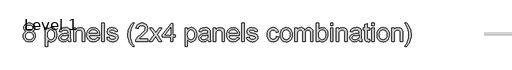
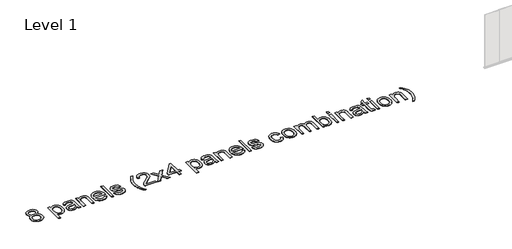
# One storey, part 15 of 80: 1 proxy.
"""IFC4 building model written with IfcOpenShell, lengths in millimetres."""

from ifc_helpers import new_model, si_unit, origin, origin_with_axes, place, context, project, spatial, polyline, outline, extrude, element, save

model = new_model("IFC4")

# Units and contexts
model_context = context("Model", 3, world=origin())
ifc_project = project(units=[si_unit("LENGTHUNIT", "METRE", prefix="MILLI")], contexts=[model_context])

# Site, building, storey
site = spatial("IfcSite", under=ifc_project)
building = spatial("IfcBuilding", under=site)
storey = spatial("IfcBuildingStorey", under=building, Name="Level 1", Elevation=0.0)

# Proxy
placement = place(None, origin())
element("IfcBuildingElementProxy", 1, Name="800mm Arial", ObjectType="800mm Arial", at=placement, inside=storey, context=model_context, shape_type="SweptSolid", body=[
    extrude(outline(polyline([(394665.4723823, -97085.9110834), (394636.728494, -97073.9085431), (394611.9732547, -97059.5640438), (394591.2066644, -97042.8775853), (394574.4287232, -97023.8491678), (394561.4930586, -97002.6617568), (394552.2532982, -96979.4983178), (394546.7094419, -96954.3588508), (394544.8614898, -96927.2433559), (394548.886732, -96886.4908284), (394560.9624585, -96849.1292625), (394581.0886693, -96815.1586582), (394609.2653645, -96784.5790154), (394644.1385989, -96759.3053737), (394684.3544274, -96741.2527725), (394729.9128501, -96730.4212118), (394780.8138669, -96726.8106915), (394831.9588378, -96730.5065957), (394877.8587961, -96741.5943082), (394918.513742, -96760.0738291), (394953.9236753, -96785.9451582), (394982.612674, -96817.1224885), (395003.1048159, -96851.5200124), (395015.4001011, -96889.1377301), (395019.4985295, -96929.9756415), (395017.6749728, -96956.1336167), (395012.2043028, -96980.5473203), (395003.0865194, -97003.2167523), (394990.3216227, -97024.1419127), (394973.848624, -97043.0422543), (394953.606535, -97059.63723), (394929.5953556, -97073.9268397), (394901.8150859, -97085.9110834), (394934.6574026, -97099.8835528), (394963.315907, -97117.6007171), (394987.7905992, -97139.0625765), (395008.081479, -97164.2691308), (395024.0055809, -97192.6592858), (395035.3799395, -97223.671947), (395042.2045546, -97257.3071145), (395044.4794263, -97293.5647882), (395039.966276, -97343.4046048), (395026.4268251, -97389.0972022), (395003.8610736, -97430.6425805), (394972.2690214, -97468.0407395), (394933.3095564, -97498.9497202), (394888.641566, -97521.0275636), (394838.2650505, -97534.2742696), (394782.1800097, -97538.6898383), (394726.0949688, -97534.2559731), (394675.7184533, -97520.9543774), (394631.050463, -97498.7850512), (394592.0909979, -97467.7479946), (394560.4989458, -97430.0875849), (394537.9331942, -97388.0481997), (394524.3937433, -97341.629839), (394519.880593, -97290.8325026), (394522.2469475, -97252.9220401), (394529.346011, -97218.2317712), (394541.1777834, -97186.7616961), (394557.7422648, -97158.5118148), (394578.673524, -97133.9944307), (394603.60563, -97113.7218474), (394632.5385828, -97097.694065), (394665.4723823, -97085.9110834)]), holes=[polyline([(394644.7850771, -96930.1708047), (394646.9989603, -96953.078092), (394653.6406099, -96973.7897926), (394664.7100258, -96992.3059065), (394680.2072082, -97008.6264338), (394699.9369936, -97021.9463261), (394723.704219, -97031.4605348), (394751.5088841, -97037.1690601), (394783.3509892, -97039.0719018), (394814.4063424, -97037.1812578), (394841.6072212, -97031.5093256), (394864.9536258, -97022.0561054), (394884.445556, -97008.8215971), (394899.8146625, -96992.8426055), (394910.7925957, -96975.1559353), (394917.3793556, -96955.7615867), (394919.5749422, -96934.6595596), (394917.3061693, -96912.7341875), (394910.4998508, -96892.6262733), (394899.1559865, -96874.3358168), (394883.2745765, -96857.8628182), (394863.3435289, -96844.2440822), (394839.8507519, -96834.5164137), (394812.7962455, -96828.6798125), (394782.1800097, -96826.7342788), (394751.3259186, -96828.6371206), (394724.1433363, -96834.3456458), (394700.6322627, -96843.8598546), (394680.792698, -96857.1797468), (394665.0393638, -96873.1587385), (394653.7869823, -96890.6502453), (394647.0355534, -96909.6542674), (394644.7850771, -96930.1708047)]), polyline([(394619.8041803, -97287.319564), (394623.9757949, -97325.5471669), (394636.4906387, -97362.5549994), (394646.437866, -97379.7232671), (394659.5930892, -97394.8301229), (394675.9563085, -97407.8755668), (394695.5275238, -97418.8595988), (394738.5610219, -97433.789588), (394782.9606627, -97438.766251), (394819.0902605, -97436.1498436), (394850.9750576, -97428.3006214), (394878.6150538, -97415.2185843), (394902.0102491, -97396.9037325), (394920.6239447, -97374.5514408), (394933.9194415, -97349.3570841), (394941.8967396, -97321.3206626), (394944.555839, -97290.4421761), (394941.8113557, -97259.0696826), (394933.5779058, -97230.5270564), (394919.8554894, -97204.8142974), (394900.6441063, -97181.9314055), (394876.6146304, -97163.1469421), (394848.4379352, -97149.7294682), (394816.1140209, -97141.6789839), (394779.6428873, -97138.9954891), (394744.0438896, -97141.6423908), (394712.5799133, -97149.5830958), (394685.2509586, -97162.8176041), (394662.0570253, -97181.3459158), (394643.5714056, -97203.8506788), (394630.3673916, -97229.0145412), (394622.4449831, -97256.8375029), (394619.8041803, -97287.319564)])]), origin_with_axes(), (0.0, 0.0, 1.0), 5.0),
    extrude(outline(polyline([(395469.1546723, -97751.0274613), (395469.1546723, -96939.1483145), (395569.0782596, -96939.1483145), (395569.0782596, -97037.1202693), (395601.6705234, -96988.7929679), (395619.4303798, -96969.8072424), (395638.1660524, -96954.2734669), (395658.4142402, -96942.1916416), (395680.7116423, -96933.5617663), (395705.0582585, -96928.3838412), (395731.4540889, -96926.6578661), (395766.3029279, -96929.0730114), (395799.0293665, -96936.3184473), (395829.6334046, -96948.3941738), (395858.1150424, -96965.3001909), (395883.8521968, -96986.5973813), (395906.2227851, -97011.8466276), (395925.2268072, -97041.0479298), (395940.8642631, -97074.201288), (395953.0741643, -97110.1723157), (395961.7955224, -97147.8266265), (395967.0283372, -97187.1642203), (395968.7726088, -97228.1850973), (395966.8026796, -97272.0419403), (395960.8928923, -97313.6422082), (395951.0432467, -97352.9859009), (395937.2537429, -97390.0730185), (395919.7134452, -97423.9338435), (395898.6114181, -97453.5986585), (395873.9476615, -97479.0674635), (395845.7221756, -97500.3402584), (395815.3193995, -97517.1181996), (395784.1237728, -97529.1024433), (395752.1352953, -97536.2929895), (395719.353967, -97538.6898383), (395695.7697073, -97537.0858403), (395673.4174156, -97532.2738462), (395652.2970919, -97524.2538562), (395632.4087363, -97513.0258701), (395597.3037456, -97483.9709403), (395569.0782596, -97448.1340873), (395569.0782596, -97751.0274613), (395469.1546723, -97751.0274613)]), holes=[polyline([(395569.0782596, -97237.3577704), (395571.7800509, -97285.5143039), (395579.8854249, -97326.9377051), (395593.3943816, -97361.6279739), (395612.3069209, -97389.5851104), (395635.0739345, -97411.1018594), (395660.1463141, -97426.4709658), (395687.5240597, -97435.6924297), (395717.2071712, -97438.766251), (395747.3172024, -97435.5826504), (395775.1950538, -97426.0318485), (395800.8407255, -97410.1138454), (395824.2542174, -97387.8286411), (395843.7644442, -97358.8590952), (395857.7003205, -97322.8880675), (395866.0618462, -97279.915558), (395868.8490215, -97229.9415666), (395866.1289336, -97182.199755), (395857.9686699, -97140.8495401), (395844.3682305, -97105.8909217), (395825.3276153, -97077.3239001), (395802.505712, -97055.1240797), (395777.5614083, -97039.2670651), (395750.4947042, -97029.7528563), (395721.3055996, -97026.5814534), (395692.2079778, -97029.9541184), (395664.8302323, -97040.0721135), (395639.1723629, -97056.9354386), (395615.2343697, -97080.5440938), (395595.0410716, -97110.5809388), (395580.6172871, -97146.7288332), (395571.9630165, -97188.987777), (395569.0782596, -97237.3577704)])]), origin_with_axes(), (0.0, 0.0, 1.0), 5.0),
    extrude(outline(polyline([(396455.9000968, -97451.2566994), (396408.1582852, -97492.1921924), (396383.7567793, -97507.3539379), (396359.00154, -97518.9783494), (396307.3076725, -97533.7619661), (396251.9544938, -97538.6898383), (396207.4633702, -97535.7257963), (396168.4490155, -97526.8336705), (396134.9114297, -97512.0134607), (396106.8506127, -97491.265167), (396084.6934842, -97465.9061413), (396068.8669639, -97437.2537358), (396059.3710517, -97405.3079502), (396056.2057476, -97370.0687847), (396060.9872474, -97328.6453836), (396075.3317468, -97291.0276659), (396097.458381, -97258.8257286), (396125.5862853, -97233.6496685), (396158.6420619, -97214.621251), (396195.5523127, -97200.8622414), (396282.0096353, -97185.8346707), (396384.1776001, -97170.0264469), (396455.3146071, -97151.4859375), (396455.9000968, -97129.2373263), (396454.1802206, -97105.0126871), (396449.020592, -97084.6425222), (396440.421211, -97068.1268316), (396428.3820777, -97055.4656154), (396407.5727954, -97042.8287945), (396382.2259675, -97033.8024939), (396352.3415939, -97028.3867135), (396317.9196745, -97026.5814534), (396258.3948813, -97031.3873486), (396235.3656171, -97037.3947176), (396216.8251077, -97045.8050342), (396201.590176, -97057.2769743), (396188.4776447, -97072.4692141), (396177.4875138, -97091.3817534), (396168.6197834, -97114.0145923), (396068.6961961, -97101.5241439), (396086.0413305, -97046.8784321), (396097.9157949, -97023.9467495), (396111.9248574, -97003.9425157), (396128.6723043, -96986.4632065), (396148.761922, -96971.1062978), (396172.1937105, -96957.8717895), (396198.9676697, -96946.7596815), (396260.3709093, -96931.68332), (396330.8004494, -96926.6578661), (396398.3513316, -96931.0978302), (396451.8992501, -96944.4177225), (396492.2736487, -96964.4463517), (396520.3039714, -96989.0125266), (396538.8932716, -97019.3848083), (396550.9446027, -97056.8317582), (396554.6039138, -97091.3756546), (396555.8236841, -97144.264897), (396555.8236841, -97268.5838914), (396557.0922453, -97376.8751033), (396560.8979288, -97442.181608), (396568.4117142, -97485.093129), (396580.8045809, -97526.1993899), (396480.8809936, -97526.1993899), (396464.8776066, -97491.4603302), (396455.9000968, -97451.2566994)]), holes=[polyline([(396455.9000968, -97251.4095248), (396388.7639366, -97268.0471924), (396294.695247, -97282.0501561), (396242.855007, -97289.7103139), (396208.7258325, -97298.2487064), (396186.3552443, -97309.3242212), (396169.7907629, -97324.595746), (396159.5446919, -97342.8923013), (396156.1293349, -97363.0429075), (396157.9894847, -97378.5705841), (396163.5699341, -97392.7565133), (396172.870683, -97405.6006951), (396185.8917315, -97417.1031295), (396202.5111026, -97426.5807452), (396222.6068192, -97433.3504706), (396273.2272888, -97438.766251), (396326.8971843, -97432.7893763), (396351.390173, -97425.3182829), (396374.3218556, -97414.8587521), (396412.7690171, -97388.4385262), (396439.5063833, -97356.9928466), (396451.3625511, -97324.595746), (396455.3146071, -97279.708197), (396455.9000968, -97251.4095248)])]), origin_with_axes(), (0.0, 0.0, 1.0), 5.0),
    extrude(outline(polyline([(396693.2186166, -97526.1993899), (396693.2186166, -96939.1483145), (396793.1422039, -96939.1483145), (396793.1422039, -97021.1168822), (396809.6274002, -96998.9780503), (396827.8568682, -96979.7910627), (396847.8306077, -96963.5559193), (396869.5486188, -96950.2726202), (396893.0109016, -96939.9411653), (396918.2174559, -96932.5615546), (396973.8633794, -96926.6578661), (397023.1177062, -96931.4149705), (397068.2248139, -96945.6862836), (397105.8425315, -96967.6909408), (397132.6286885, -96995.6480773), (397150.8032668, -97029.4845069), (397162.5862484, -97069.1270433), (397166.5383043, -97107.0375059), (397167.8556563, -97165.7328553), (397167.8556563, -97526.1993899), (397067.932069, -97526.1993899), (397067.932069, -97179.1991199), (397065.053411, -97127.5296478), (397056.4174369, -97090.7901648), (397040.4872361, -97064.4675206), (397015.7258979, -97044.0485649), (396983.9874733, -97030.9482313), (396947.1260133, -97026.5814534), (396916.7842257, -97029.0331918), (396888.6014317, -97036.3884071), (396862.5776313, -97048.6470991), (396838.7128243, -97065.809268), (396818.7756779, -97089.8265462), (396804.534859, -97122.6505664), (396795.9903677, -97164.2813285), (396793.1422039, -97214.7188326), (396793.1422039, -97526.1993899), (396693.2186166, -97526.1993899)])), origin_with_axes(), (0.0, 0.0, 1.0), 5.0),
    extrude(outline(polyline([(397716.2644069, -97351.3331121), (397814.2363616, -97363.8235605), (397799.2148897, -97403.0635728), (397778.9362076, -97437.6440623), (397753.4003152, -97467.565029), (397722.6072127, -97492.826473), (397686.8740402, -97512.8916953), (397646.5179381, -97527.223997), (397601.5389063, -97535.823378), (397551.9369449, -97538.6898383), (397489.9360179, -97533.7436695), (397434.6926186, -97518.9051632), (397386.2067471, -97494.1743193), (397344.4784034, -97459.5511378), (397310.9225209, -97415.9992374), (397286.9540335, -97364.4822365), (397272.5729411, -97305.0001353), (397267.7792436, -97237.5529336), (397272.6217319, -97167.8186626), (397287.1491968, -97106.3544345), (397311.3616383, -97053.1602494), (397327.0997253, -97029.664423), (397345.2590564, -97008.2361073), (397386.8776208, -96972.5456268), (397434.2535013, -96947.0524264), (397487.3866979, -96931.7565062), (397546.2772105, -96926.6578661), (397603.2709802, -96931.7443085), (397654.8123765, -96947.0036356), (397700.9013993, -96972.4358475), (397741.5380486, -97008.0409441), (397774.7097033, -97052.8675045), (397798.4037424, -97105.964108), (397812.6201659, -97167.3307544), (397817.3589737, -97236.9674439), (397816.7734839, -97263.8999732), (397367.7028309, -97263.8999732), (397373.4906412, -97303.7742661), (397384.9991745, -97338.6962913), (397402.2284307, -97368.6660488), (397425.1784099, -97393.6835388), (397452.5805509, -97413.4072254), (397483.1662925, -97427.4955729), (397516.9356347, -97435.9485815), (397553.8885775, -97438.766251), (397607.0705649, -97433.5456339), (397651.8605322, -97417.8837826), (397671.1085084, -97405.89344), (397688.2584796, -97390.8048807), (397703.3104457, -97372.6181048), (397716.2644069, -97351.3331121)]), holes=[polyline([(397367.7028309, -97163.9763859), (397717.4353864, -97163.9763859), (397712.3001532, -97135.7021092), (397703.9203309, -97111.1847251), (397692.2959194, -97090.4242337), (397677.4269188, -97073.420635), (397650.1772491, -97052.928493), (397619.1706868, -97038.2912488), (397584.4072317, -97029.5089023), (397545.886884, -97026.5814534), (397510.751399, -97028.9173136), (397478.5311651, -97035.9248943), (397449.2261824, -97047.6041954), (397422.8364508, -97063.955217), (397400.6915201, -97084.2217014), (397384.1209398, -97107.6473911), (397373.1247101, -97134.2322859), (397367.7028309, -97163.9763859)])]), origin_with_axes(), (0.0, 0.0, 1.0), 5.0),
    extrude(outline(polyline([(397917.282561, -97526.1993899), (397917.282561, -96726.8106915), (398017.2061483, -96726.8106915), (398017.2061483, -97526.1993899), (397917.282561, -97526.1993899)])), origin_with_axes(), (0.0, 0.0, 1.0), 5.0),
    extrude(outline(polyline([(398129.620184, -97351.3331121), (398229.5437713, -97338.8426637), (398235.5816345, -97361.6279739), (398245.3032042, -97381.5834169), (398258.7084804, -97398.7089926), (398275.797463, -97413.0047012), (398296.618943, -97424.2753792), (398321.221711, -97432.3258635), (398349.6057671, -97437.1561541), (398381.7711113, -97438.766251), (398413.8998624, -97437.2903289), (398441.5886494, -97432.8625625), (398464.8374723, -97425.4829519), (398483.6463311, -97415.151497), (398498.1615983, -97402.8318164), (398508.5296463, -97389.4875288), (398514.7504751, -97375.118634), (398516.8240847, -97359.7251321), (398514.7382774, -97346.234472), (398508.4808555, -97334.2563272), (398498.051819, -97323.7906976), (398483.4511679, -97314.8375832), (398446.0286135, -97302.1519715), (398380.6001317, -97286.3437477), (398289.4101002, -97259.9723127), (398230.129261, -97237.455352), (398192.0480306, -97212.8891771), (398176.9411748, -97197.6237511), (398164.4568252, -97180.3700995), (398147.6971806, -97141.9717288), (398142.1106324, -97099.7676746), (398146.5993873, -97061.0521636), (398160.065652, -97025.3128923), (398181.2896561, -96993.9647942), (398209.0516293, -96968.422803), (398236.6428347, -96952.3462298), (398272.5772693, -96938.8555697), (398314.1226475, -96929.707292), (398358.5466838, -96926.6578661), (398423.584839, -96931.5613429), (398480.1333925, -96946.2717734), (398525.6064313, -96969.3498285), (398543.2199152, -96983.4869669), (398557.4180421, -96999.3561791), (398578.4956738, -97038.5108075), (398591.7667752, -97089.0336955), (398491.8431879, -97101.5241439), (398487.0799847, -97084.8315866), (398479.2307625, -97070.0784642), (398468.2955213, -97057.2647766), (398454.274261, -97046.3905239), (398437.1059933, -97037.7240556), (398416.7297296, -97031.533721), (398366.353214, -97026.5814534), (398308.9752166, -97031.3141624), (398287.4584676, -97037.2300486), (398270.7232184, -97045.5122893), (398249.2064694, -97066.0044312), (398243.8272821, -97077.4214817), (398242.0342197, -97089.6191852), (398245.0104593, -97104.9882917), (398253.9391783, -97118.6985105), (398269.2107031, -97130.9450048), (398291.2153603, -97140.7519584), (398377.2823564, -97162.0247534), (398465.5693345, -97188.1278389), (398523.9475436, -97209.0590982), (398562.68745, -97231.5516635), (398592.0595201, -97262.3386672), (398602.8605866, -97280.8669788), (398610.575634, -97301.5176909), (398615.2046625, -97324.2908034), (398616.747672, -97349.1863163), (398614.9363131, -97374.1916085), (398609.5022361, -97398.4650385), (398600.4454413, -97422.0066064), (398587.7659284, -97444.8163119), (398571.6710586, -97465.9854264), (398552.3681928, -97484.6052209), (398529.857331, -97500.6756953), (398504.1384731, -97514.1968496), (398475.9129871, -97524.9125322), (398445.882241, -97532.5665911), (398414.0462348, -97537.1590265), (398380.4049685, -97538.6898383), (398326.6252936, -97535.737994), (398279.6519374, -97526.8824613), (398239.4848996, -97512.12324), (398206.1241805, -97491.4603302), (398178.8745108, -97464.9913136), (398157.0406215, -97432.8137717), (398140.6225126, -97394.9277045), (398129.620184, -97351.3331121)])), origin_with_axes(), (0.0, 0.0, 1.0), 5.0),
    extrude(outline(polyline([(399241.2700926, -97751.0274613), (399200.932287, -97698.8334879), (399163.8390706, -97642.3703183), (399129.9904433, -97581.6379524), (399099.3864052, -97516.6363903), (399074.0273795, -97448.8903449), (399055.9137898, -97379.9245292), (399045.045636, -97309.7389431), (399041.422918, -97238.3335866), (399044.1308082, -97175.576402), (399052.2544788, -97114.1609647), (399065.7939297, -97054.0872749), (399084.7491609, -96995.3553324), (399113.5601367, -96927.9996135), (399149.2506172, -96860.7902671), (399191.8206025, -96793.7272931), (399241.2700926, -96726.8106915), (399316.2127831, -96726.8106915), (399257.4198521, -96821.8064066), (399222.7295832, -96885.0880925), (399190.8203908, -96960.2259462), (399166.5225654, -97038.4864121), (399147.6405203, -97138.4587902), (399141.3465053, -97238.9190764), (399144.0787909, -97302.9753165), (399152.2756477, -97367.0193589), (399165.9370756, -97431.0512035), (399185.0630748, -97495.0708505), (399209.6536451, -97559.0782997), (399239.7087866, -97623.0735513), (399275.2284992, -97687.0566051), (399316.2127831, -97751.0274613), (399241.2700926, -97751.0274613)])), origin_with_axes(), (0.0, 0.0, 1.0), 5.0),
    extrude(outline(polyline([(399903.2638584, -97426.2758026), (399903.2638584, -97526.1993899), (399378.6650251, -97526.1993899), (399380.8606118, -97491.0212129), (399389.3990042, -97457.3067604), (399414.0383654, -97403.466097), (399450.094777, -97351.2355305), (399502.2521573, -97296.5654233), (399575.1944244, -97235.4061378), (399683.0221235, -97139.6297697), (399720.7618182, -97101.1460151), (399747.718743, -97068.9318801), (399766.5885904, -97040.0477181), (399780.0670528, -97011.5538827), (399788.1541302, -96983.4503737), (399790.8498227, -96955.7371913), (399788.3066015, -96929.6646), (399780.676938, -96905.7022115), (399767.960832, -96883.8500256), (399750.1582837, -96864.1080424), (399728.2573071, -96847.7570209), (399703.245916, -96836.0777197), (399675.1241105, -96829.0701391), (399643.8918906, -96826.7342788), (399610.9885854, -96829.0152494), (399581.5616256, -96835.8581611), (399555.6110113, -96847.2630139), (399533.1367426, -96863.2298078), (399514.9560655, -96883.2218439), (399501.8862262, -96906.7024232), (399493.9272246, -96933.6715457), (399491.0790608, -96964.1292114), (399391.1554735, -96951.6387629), (399399.7487557, -96900.0546747), (399415.3801127, -96854.9841602), (399438.0495448, -96816.4272194), (399467.7570517, -96784.3838522), (399503.8195622, -96759.1955944), (399545.5540048, -96741.2039817), (399592.9603795, -96730.4090141), (399646.0386864, -96726.8106915), (399699.5927038, -96730.8115383), (399747.2552303, -96742.8140786), (399789.026266, -96762.8183124), (399824.905811, -96790.8242396), (399853.7228855, -96824.7582509), (399874.3065102, -96862.5467364), (399886.6566851, -96904.1896962), (399890.77341, -96949.6871304), (399886.3334459, -96997.4777328), (399873.0135537, -97044.4388914), (399849.3744042, -97092.2050984), (399813.9766686, -97142.4108461), (399757.5500921, -97202.3503612), (399670.82442, -97279.3178705), (399555.873262, -97375.4357743), (399530.941156, -97400.7826022), (399510.7905497, -97426.2758026), (399903.2638584, -97426.2758026)])), origin_with_axes(), (0.0, 0.0, 1.0), 5.0),
    extrude(outline(polyline([(399965.7161005, -97526.1993899), (400179.224703, -97231.1125462), (399978.2065489, -96939.1483145), (400098.4271149, -96939.1483145), (400195.4232533, -97079.6658592), (400240.7011288, -97146.0213664), (400279.9289433, -97091.7659811), (400390.3913465, -96939.1483145), (400510.6119124, -96939.1483145), (400299.445269, -97231.1125462), (400502.8053822, -97526.1993899), (400382.5848162, -97526.1993899), (400260.2174544, -97348.7959898), (400237.7736799, -97316.3988892), (400085.9366664, -97526.1993899), (399965.7161005, -97526.1993899)])), origin_with_axes(), (0.0, 0.0, 1.0), 5.0),
    extrude(outline(polyline([(400890.0092829, -97526.1993899), (400890.0092829, -97338.8426637), (400527.786279, -97338.8426637), (400527.786279, -97238.9190764), (400914.9901798, -96739.30114), (400989.9328702, -96739.30114), (400989.9328702, -97238.9190764), (401089.8564575, -97238.9190764), (401089.8564575, -97338.8426637), (400989.9328702, -97338.8426637), (400989.9328702, -97526.1993899), (400890.0092829, -97526.1993899)]), holes=[polyline([(400890.0092829, -97238.9190764), (400890.0092829, -96930.1708047), (400650.7391306, -97238.9190764), (400890.0092829, -97238.9190764)])]), origin_with_axes(), (0.0, 0.0, 1.0), 5.0),
    extrude(outline(polyline([(401514.5317035, -97751.0274613), (401514.5317035, -96939.1483145), (401614.4552908, -96939.1483145), (401614.4552908, -97037.1202693), (401647.0475546, -96988.7929679), (401664.807411, -96969.8072424), (401683.5430836, -96954.2734669), (401703.7912714, -96942.1916416), (401726.0886735, -96933.5617663), (401750.4352897, -96928.3838412), (401776.8311202, -96926.6578661), (401811.6799591, -96929.0730114), (401844.4063977, -96936.3184473), (401875.0104358, -96948.3941738), (401903.4920736, -96965.3001909), (401929.229228, -96986.5973813), (401951.5998163, -97011.8466276), (401970.6038384, -97041.0479298), (401986.2412943, -97074.201288), (401998.4511955, -97110.1723157), (402007.1725536, -97147.8266265), (402012.4053684, -97187.1642203), (402014.14964, -97228.1850973), (402012.1797109, -97272.0419403), (402006.2699235, -97313.6422082), (401996.4202779, -97352.9859009), (401982.6307741, -97390.0730185), (401965.0904764, -97423.9338435), (401943.9884493, -97453.5986585), (401919.3246928, -97479.0674635), (401891.0992068, -97500.3402584), (401860.6964308, -97517.1181996), (401829.500804, -97529.1024433), (401797.5123265, -97536.2929895), (401764.7309983, -97538.6898383), (401741.1467385, -97537.0858403), (401718.7944468, -97532.2738462), (401697.6741231, -97524.2538562), (401677.7857675, -97513.0258701), (401642.6807768, -97483.9709403), (401614.4552908, -97448.1340873), (401614.4552908, -97751.0274613), (401514.5317035, -97751.0274613)]), holes=[polyline([(401614.4552908, -97237.3577704), (401617.1570821, -97285.5143039), (401625.2624561, -97326.9377051), (401638.7714128, -97361.6279739), (401657.6839521, -97389.5851104), (401680.4509657, -97411.1018594), (401705.5233453, -97426.4709658), (401732.9010909, -97435.6924297), (401762.5842024, -97438.766251), (401792.6942336, -97435.5826504), (401820.572085, -97426.0318485), (401846.2177567, -97410.1138454), (401869.6312486, -97387.8286411), (401889.1414754, -97358.8590952), (401903.0773517, -97322.8880675), (401911.4388774, -97279.915558), (401914.2260527, -97229.9415666), (401911.5059648, -97182.199755), (401903.3457011, -97140.8495401), (401889.7452617, -97105.8909217), (401870.7046465, -97077.3239001), (401847.8827432, -97055.1240797), (401822.9384395, -97039.2670651), (401795.8717354, -97029.7528563), (401766.6826308, -97026.5814534), (401737.5850091, -97029.9541184), (401710.2072635, -97040.0721135), (401684.5493941, -97056.9354386), (401660.611401, -97080.5440938), (401640.4181028, -97110.5809388), (401625.9943183, -97146.7288332), (401617.3400477, -97188.987777), (401614.4552908, -97237.3577704)])]), origin_with_axes(), (0.0, 0.0, 1.0), 5.0),
    extrude(outline(polyline([(402501.277128, -97451.2566994), (402453.5353164, -97492.1921924), (402429.1338105, -97507.3539379), (402404.3785712, -97518.9783494), (402352.6847037, -97533.7619661), (402297.3315251, -97538.6898383), (402252.8404014, -97535.7257963), (402213.8260467, -97526.8336705), (402180.2884609, -97512.0134607), (402152.2276439, -97491.265167), (402130.0705154, -97465.9061413), (402114.2439951, -97437.2537358), (402104.7480829, -97405.3079502), (402101.5827789, -97370.0687847), (402106.3642786, -97328.6453836), (402120.708778, -97291.0276659), (402142.8354122, -97258.8257286), (402170.9633165, -97233.6496685), (402204.0190931, -97214.621251), (402240.929344, -97200.8622414), (402327.3866666, -97185.8346707), (402429.5546313, -97170.0264469), (402500.6916383, -97151.4859375), (402501.277128, -97129.2373263), (402499.5572518, -97105.0126871), (402494.3976232, -97084.6425222), (402485.7982423, -97068.1268316), (402473.7591089, -97055.4656154), (402452.9498267, -97042.8287945), (402427.6029987, -97033.8024939), (402397.7186251, -97028.3867135), (402363.2967057, -97026.5814534), (402303.7719125, -97031.3873486), (402280.7426483, -97037.3947176), (402262.2021389, -97045.8050342), (402246.9672072, -97057.2769743), (402233.8546759, -97072.4692141), (402222.864545, -97091.3817534), (402213.9968146, -97114.0145923), (402114.0732273, -97101.5241439), (402131.4183617, -97046.8784321), (402143.2928261, -97023.9467495), (402157.3018886, -97003.9425157), (402174.0493355, -96986.4632065), (402194.1389532, -96971.1062978), (402217.5707417, -96957.8717895), (402244.3447009, -96946.7596815), (402305.7479405, -96931.68332), (402376.1774807, -96926.6578661), (402443.7283628, -96931.0978302), (402497.2762813, -96944.4177225), (402537.6506799, -96964.4463517), (402565.6810027, -96989.0125266), (402584.2703028, -97019.3848083), (402596.3216339, -97056.8317582), (402599.980945, -97091.3756546), (402601.2007153, -97144.264897), (402601.2007153, -97268.5838914), (402602.4692765, -97376.8751033), (402606.27496, -97442.181608), (402613.7887454, -97485.093129), (402626.1816121, -97526.1993899), (402526.2580249, -97526.1993899), (402510.2546378, -97491.4603302), (402501.277128, -97451.2566994)]), holes=[polyline([(402501.277128, -97251.4095248), (402434.1409678, -97268.0471924), (402340.0722782, -97282.0501561), (402288.2320382, -97289.7103139), (402254.1028638, -97298.2487064), (402231.7322755, -97309.3242212), (402215.1677941, -97324.595746), (402204.9217231, -97342.8923013), (402201.5063662, -97363.0429075), (402203.3665159, -97378.5705841), (402208.9469653, -97392.7565133), (402218.2477142, -97405.6006951), (402231.2687628, -97417.1031295), (402247.8881338, -97426.5807452), (402267.9838504, -97433.3504706), (402318.60432, -97438.766251), (402372.2742155, -97432.7893763), (402396.7672042, -97425.3182829), (402419.6988868, -97414.8587521), (402458.1460484, -97388.4385262), (402484.8834145, -97356.9928466), (402496.7395823, -97324.595746), (402500.6916383, -97279.708197), (402501.277128, -97251.4095248)])]), origin_with_axes(), (0.0, 0.0, 1.0), 5.0),
    extrude(outline(polyline([(402738.5956479, -97526.1993899), (402738.5956479, -96939.1483145), (402838.5192351, -96939.1483145), (402838.5192351, -97021.1168822), (402855.0044315, -96998.9780503), (402873.2338994, -96979.7910627), (402893.2076389, -96963.5559193), (402914.92565, -96950.2726202), (402938.3879328, -96939.9411653), (402963.5944871, -96932.5615546), (403019.2404106, -96926.6578661), (403068.4947374, -96931.4149705), (403113.6018451, -96945.6862836), (403151.2195628, -96967.6909408), (403178.0057197, -96995.6480773), (403196.180298, -97029.4845069), (403207.9632796, -97069.1270433), (403211.9153355, -97107.0375059), (403213.2326875, -97165.7328553), (403213.2326875, -97526.1993899), (403113.3091002, -97526.1993899), (403113.3091002, -97179.1991199), (403110.4304422, -97127.5296478), (403101.7944681, -97090.7901648), (403085.8642673, -97064.4675206), (403061.1029291, -97044.0485649), (403029.3645045, -97030.9482313), (402992.5030445, -97026.5814534), (402962.1612569, -97029.0331918), (402933.9784629, -97036.3884071), (402907.9546625, -97048.6470991), (402884.0898555, -97065.809268), (402864.1527091, -97089.8265462), (402849.9118902, -97122.6505664), (402841.3673989, -97164.2813285), (402838.5192351, -97214.7188326), (402838.5192351, -97526.1993899), (402738.5956479, -97526.1993899)])), origin_with_axes(), (0.0, 0.0, 1.0), 5.0),
    extrude(outline(polyline([(403761.6414381, -97351.3331121), (403859.6133928, -97363.8235605), (403844.5919209, -97403.0635728), (403824.3132388, -97437.6440623), (403798.7773465, -97467.565029), (403767.9842439, -97492.826473), (403732.2510714, -97512.8916953), (403691.8949693, -97527.223997), (403646.9159375, -97535.823378), (403597.3139761, -97538.6898383), (403535.3130491, -97533.7436695), (403480.0696498, -97518.9051632), (403431.5837783, -97494.1743193), (403389.8554346, -97459.5511378), (403356.2995522, -97415.9992374), (403332.3310647, -97364.4822365), (403317.9499723, -97305.0001353), (403313.1562748, -97237.5529336), (403317.9987631, -97167.8186626), (403332.526228, -97106.3544345), (403356.7386695, -97053.1602494), (403372.4767565, -97029.664423), (403390.6360876, -97008.2361073), (403432.254652, -96972.5456268), (403479.6305325, -96947.0524264), (403532.7637291, -96931.7565062), (403591.6542417, -96926.6578661), (403648.6480114, -96931.7443085), (403700.1894077, -96947.0036356), (403746.2784305, -96972.4358475), (403786.9150798, -97008.0409441), (403820.0867345, -97052.8675045), (403843.7807736, -97105.964108), (403857.9971971, -97167.3307544), (403862.7360049, -97236.9674439), (403862.1505151, -97263.8999732), (403413.0798621, -97263.8999732), (403418.8676724, -97303.7742661), (403430.3762057, -97338.6962913), (403447.6054619, -97368.6660488), (403470.5554411, -97393.6835388), (403497.9575821, -97413.4072254), (403528.5433237, -97427.4955729), (403562.3126659, -97435.9485815), (403599.2656087, -97438.766251), (403652.4475961, -97433.5456339), (403697.2375634, -97417.8837826), (403716.4855396, -97405.89344), (403733.6355108, -97390.8048807), (403748.6874769, -97372.6181048), (403761.6414381, -97351.3331121)]), holes=[polyline([(403413.0798621, -97163.9763859), (403762.8124176, -97163.9763859), (403757.6771844, -97135.7021092), (403749.2973621, -97111.1847251), (403737.6729506, -97090.4242337), (403722.80395, -97073.420635), (403695.5542804, -97052.928493), (403664.547718, -97038.2912488), (403629.7842629, -97029.5089023), (403591.2639152, -97026.5814534), (403556.1284302, -97028.9173136), (403523.9081963, -97035.9248943), (403494.6032136, -97047.6041954), (403468.213482, -97063.955217), (403446.0685513, -97084.2217014), (403429.497971, -97107.6473911), (403418.5017413, -97134.2322859), (403413.0798621, -97163.9763859)])]), origin_with_axes(), (0.0, 0.0, 1.0), 5.0),
    extrude(outline(polyline([(403962.6595922, -97526.1993899), (403962.6595922, -96726.8106915), (404062.5831795, -96726.8106915), (404062.5831795, -97526.1993899), (403962.6595922, -97526.1993899)])), origin_with_axes(), (0.0, 0.0, 1.0), 5.0),
    extrude(outline(polyline([(404174.9972152, -97351.3331121), (404274.9208025, -97338.8426637), (404280.9586657, -97361.6279739), (404290.6802354, -97381.5834169), (404304.0855116, -97398.7089926), (404321.1744943, -97413.0047012), (404341.9959742, -97424.2753792), (404366.5987422, -97432.3258635), (404394.9827983, -97437.1561541), (404427.1481425, -97438.766251), (404459.2768936, -97437.2903289), (404486.9656806, -97432.8625625), (404510.2145035, -97425.4829519), (404529.0233624, -97415.151497), (404543.5386295, -97402.8318164), (404553.9066775, -97389.4875288), (404560.1275063, -97375.118634), (404562.2011159, -97359.7251321), (404560.1153086, -97346.234472), (404553.8578867, -97334.2563272), (404543.4288502, -97323.7906976), (404528.8281991, -97314.8375832), (404491.4056447, -97302.1519715), (404425.977163, -97286.3437477), (404334.7871314, -97259.9723127), (404275.5062922, -97237.455352), (404237.4250618, -97212.8891771), (404222.318206, -97197.6237511), (404209.8338565, -97180.3700995), (404193.0742118, -97141.9717288), (404187.4876636, -97099.7676746), (404191.9764185, -97061.0521636), (404205.4426832, -97025.3128923), (404226.6666873, -96993.9647942), (404254.4286606, -96968.422803), (404282.0198659, -96952.3462298), (404317.9543005, -96938.8555697), (404359.4996787, -96929.707292), (404403.923715, -96926.6578661), (404468.9618702, -96931.5613429), (404525.5104237, -96946.2717734), (404570.9834625, -96969.3498285), (404588.5969464, -96983.4869669), (404602.7950733, -96999.3561791), (404623.872705, -97038.5108075), (404637.1438064, -97089.0336955), (404537.2202191, -97101.5241439), (404532.4570159, -97084.8315866), (404524.6077937, -97070.0784642), (404513.6725525, -97057.2647766), (404499.6512923, -97046.3905239), (404482.4830245, -97037.7240556), (404462.1067608, -97031.533721), (404411.7302452, -97026.5814534), (404354.3522478, -97031.3141624), (404332.8354988, -97037.2300486), (404316.1002496, -97045.5122893), (404294.5835006, -97066.0044312), (404289.2043133, -97077.4214817), (404287.4112509, -97089.6191852), (404290.3874906, -97104.9882917), (404299.3162095, -97118.6985105), (404314.5877343, -97130.9450048), (404336.5923915, -97140.7519584), (404422.6593876, -97162.0247534), (404510.9463657, -97188.1278389), (404569.3245748, -97209.0590982), (404608.0644812, -97231.5516635), (404637.4365513, -97262.3386672), (404648.2376178, -97280.8669788), (404655.9526653, -97301.5176909), (404660.5816937, -97324.2908034), (404662.1247032, -97349.1863163), (404660.3133443, -97374.1916085), (404654.8792673, -97398.4650385), (404645.8224725, -97422.0066064), (404633.1429597, -97444.8163119), (404617.0480899, -97465.9854264), (404597.745224, -97484.6052209), (404575.2343622, -97500.6756953), (404549.5155043, -97514.1968496), (404521.2900183, -97524.9125322), (404491.2592722, -97532.5665911), (404459.423266, -97537.1590265), (404425.7819997, -97538.6898383), (404372.0023248, -97535.737994), (404325.0289686, -97526.8824613), (404284.8619309, -97512.12324), (404251.5012117, -97491.4603302), (404224.251542, -97464.9913136), (404202.4176527, -97432.8137717), (404185.9995438, -97394.9277045), (404174.9972152, -97351.3331121)])), origin_with_axes(), (0.0, 0.0, 1.0), 5.0),
    extrude(outline(polyline([(405461.5134016, -97313.8617669), (405561.4369889, -97326.3522153), (405550.568835, -97373.5024383), (405533.577434, -97415.2246832), (405510.4627858, -97451.51895), (405481.2248905, -97482.3852388), (405447.095716, -97507.0185011), (405409.3072305, -97524.6136884), (405367.8594339, -97535.1708008), (405322.7523263, -97538.6898383), (405266.7099774, -97533.7802626), (405216.4615377, -97519.0515356), (405172.0070072, -97494.5036573), (405133.3463859, -97460.1366276), (405102.0531775, -97416.5969248), (405079.7008858, -97364.5310273), (405066.2895108, -97303.9389351), (405061.8190524, -97234.820648), (405063.727993, -97188.8779977), (405069.4548148, -97145.8993893), (405078.9995178, -97105.8848229), (405092.362102, -97068.8342984), (405109.6340502, -97035.4918758), (405130.9068452, -97006.601615), (405156.1804869, -96982.163516), (405185.4549754, -96962.1775788), (405217.4068597, -96946.6377045), (405250.7126892, -96935.5377943), (405285.3724638, -96928.8778482), (405321.3861835, -96926.6578661), (405365.7187369, -96929.707292), (405405.8186873, -96938.8555697), (405441.6860345, -96954.1026991), (405473.3207786, -96975.4486802), (405500.1862206, -97002.405605), (405521.7456616, -97034.4855653), (405537.9991015, -97071.6885611), (405548.9465405, -97114.0145923), (405449.0229532, -97126.5050407), (405441.2225218, -97103.164735), (405430.8971657, -97082.9104483), (405418.0468851, -97065.7421806), (405402.6716798, -97051.6599319), (405385.1618764, -97040.6880975), (405365.9078013, -97032.851073), (405344.9094547, -97028.1488583), (405322.1668365, -97026.5814534), (405288.2145287, -97029.6674724), (405257.592194, -97038.9255294), (405230.2998324, -97054.3556243), (405206.3374438, -97075.9577573), (405186.827217, -97104.2320341), (405172.8913407, -97139.6785605), (405164.529815, -97182.2973366), (405161.7426397, -97232.0883624), (405164.4688264, -97282.629547), (405172.6473867, -97325.7423301), (405186.2783203, -97361.4267118), (405205.3616275, -97389.682692), (405228.8483057, -97411.1567491), (405255.6893523, -97426.4953613), (405285.8847673, -97435.6985286), (405319.4345509, -97438.766251), (405346.4707608, -97436.8512115), (405371.1772093, -97431.1060932), (405393.5538964, -97421.5308959), (405413.6008221, -97408.1256197), (405430.7568921, -97390.7438922), (405444.461012, -97369.2393409), (405454.7131819, -97343.6119658), (405461.5134016, -97313.8617669)])), origin_with_axes(), (0.0, 0.0, 1.0), 5.0),
    extrude(outline(polyline([(405623.8892309, -97232.6738522), (405629.2928136, -97156.6455661), (405636.0472919, -97122.5743307), (405645.5035616, -97091.1317005), (405657.6616226, -97062.3176753), (405672.5214749, -97036.1322553), (405690.0831185, -97012.5754403), (405710.3465535, -96991.6472305), (405748.4277839, -96963.2143836), (405790.4610703, -96942.9052072), (405836.4464126, -96930.7197014), (405886.3838108, -96926.6578661), (405941.5113319, -96931.6040349), (405991.3572474, -96946.4425412), (406035.9215572, -96971.1733851), (406075.2042614, -97005.7965666), (406107.2659251, -97049.1411061), (406130.1671135, -97100.0360241), (406143.9078265, -97158.4813205), (406148.4880642, -97224.4769954), (406146.4632454, -97277.9639254), (406140.3887891, -97325.4251898), (406130.2646951, -97366.8607887), (406116.0909636, -97402.270722), (406098.0444613, -97432.8564636), (406076.3020547, -97459.8194873), (406050.863744, -97483.159793), (406021.7295292, -97502.8773807), (405990.0337966, -97518.5453309), (405956.9109326, -97529.7367239), (405922.3609374, -97536.4515597), (405886.3838108, -97538.6898383), (405830.4512413, -97533.7619661), (405780.1418131, -97518.9783494), (405735.4555262, -97494.3389883), (405696.3923807, -97459.8438827), (405664.6722527, -97416.0785224), (405642.0150184, -97363.6283973), (405628.4206778, -97302.4935072), (405623.8892309, -97232.6738522)]), holes=[polyline([(405723.8128182, -97232.478689), (405726.703674, -97280.9462639), (405735.3762412, -97322.9124629), (405749.8305198, -97358.3772859), (405770.06651, -97387.3407329), (405794.6814757, -97409.8393971), (405822.2726811, -97425.9098715), (405852.8401261, -97435.5521561), (405886.3838108, -97438.766251), (405919.7567277, -97435.5338596), (405950.2021957, -97425.8366853), (405977.7202148, -97409.6747281), (406002.3107852, -97387.047988), (406022.5467753, -97357.797895), (406037.001054, -97321.7658788), (406045.6736212, -97278.9519394), (406048.5644769, -97229.3560768), (406045.6553246, -97182.4254125), (406036.9278678, -97141.5570069), (406022.3821063, -97106.7508598), (406002.0180403, -97078.0069715), (405977.3359872, -97055.5083073), (405949.8362646, -97039.4378329), (405919.5188725, -97029.7955483), (405886.3838108, -97026.5814534), (405852.8401261, -97029.7833506), (405822.2726811, -97039.3890421), (405794.6814757, -97055.398528), (405770.06651, -97077.8118082), (405749.8305198, -97106.6898713), (405735.3762412, -97142.0937058), (405726.703674, -97184.0233117), (405723.8128182, -97232.478689)])]), origin_with_axes(), (0.0, 0.0, 1.0), 5.0),
    extrude(outline(polyline([(406260.9020999, -97526.1993899), (406260.9020999, -96939.1483145), (406360.8256872, -96939.1483145), (406360.8256872, -97035.7541265), (406390.8808287, -96991.378881), (406409.1285932, -96972.7956797), (406429.5231535, -96956.615426), (406451.7351716, -96943.5089935), (406475.4353096, -96934.1472561), (406500.6235673, -96928.5302136), (406527.299945, -96926.6578661), (406556.4646541, -96928.5668067), (406582.8726822, -96934.2936285), (406606.5240294, -96943.8383315), (406627.4186955, -96957.2009158), (406645.4956921, -96974.0032524), (406660.6940307, -96993.8672126), (406673.0137113, -97016.7927963), (406682.4547338, -97042.7800037), (406718.8770765, -96991.9765685), (406739.0093862, -96972.0180761), (406760.4224548, -96955.6884005), (406783.1162822, -96942.9875417), (406807.0908685, -96933.9154997), (406832.3462136, -96928.4722745), (406858.8823176, -96926.6578661), (406898.8846863, -96929.6767977), (406933.9957759, -96938.7335926), (406964.2155864, -96953.8282507), (406989.5441178, -96974.9607721), (407009.5666481, -97002.3751108), (407023.8684555, -97036.3152208), (407032.44954, -97076.7811023), (407035.3099014, -97123.7727551), (407035.3099014, -97526.1993899), (406935.3863141, -97526.1993899), (406935.3863141, -97166.7086715), (406933.0687505, -97116.8688549), (406926.1160595, -97083.2763794), (406913.0889121, -97060.2715106), (406892.5479794, -97042.1945139), (406866.1277535, -97030.4847185), (406835.4627269, -97026.5814534), (406807.1457581, -97029.0819826), (406781.3293186, -97036.5835703), (406758.0134083, -97049.0862164), (406737.1980272, -97066.589921), (406720.0785503, -97089.6069875), (406707.8503526, -97118.6497196), (406700.5134339, -97153.7181173), (406698.0677943, -97194.8121805), (406698.0677943, -97526.1993899), (406598.144207, -97526.1993899), (406598.144207, -97155.5843659), (406596.6987792, -97125.3096658), (406592.3624956, -97099.0846032), (406585.1353562, -97076.9091782), (406575.0173611, -97058.7833907), (406561.6059861, -97044.6950432), (406544.4987069, -97034.6319377), (406523.6955236, -97028.5940745), (406499.196436, -97026.5814534), (406460.7004837, -97031.948443), (406425.2295618, -97048.0494116), (406409.4213381, -97060.0275565), (406395.9550734, -97074.4940329), (406384.8307678, -97091.4488408), (406376.0484212, -97110.8919802), (406364.6313707, -97161.3904728), (406360.8256872, -97230.1367299), (406360.8256872, -97526.1993899), (406260.9020999, -97526.1993899)])), origin_with_axes(), (0.0, 0.0, 1.0), 5.0),
    extrude(outline(polyline([(407285.1188697, -97526.1993899), (407185.1952824, -97526.1993899), (407185.1952824, -96726.8106915), (407285.1188697, -96726.8106915), (407285.1188697, -97023.2636781), (407317.979483, -96980.9986353), (407355.0848971, -96950.8093191), (407375.2294045, -96940.2430584), (407396.4351121, -96932.6957294), (407442.0301278, -96926.6578661), (407493.5044367, -96932.0980419), (407542.1488784, -96948.4185692), (407585.1823764, -96974.594841), (407619.8238545, -97009.6022501), (407646.9759425, -97053.0992609), (407667.5412706, -97104.7443376), (407680.4952318, -97162.3906845), (407684.8132188, -97223.8915057), (407680.3427605, -97294.8577448), (407666.9313855, -97357.2855914), (407644.5790938, -97411.1750456), (407613.2858854, -97456.5261073), (407575.7230574, -97492.4727396), (407534.5619068, -97518.1489056), (407489.8024337, -97533.5546051), (407441.4446381, -97538.6898383), (407417.2291471, -97537.034), (407394.3493048, -97532.0664853), (407372.8051109, -97523.787294), (407352.5965656, -97512.1964262), (407333.7236688, -97497.2938819), (407316.1864206, -97479.0796612), (407285.1188697, -97432.7161901), (407285.1188697, -97526.1993899)]), holes=[polyline([(407285.1188697, -97228.5754238), (407286.8265482, -97273.6093452), (407291.9495836, -97311.9101343), (407300.4879761, -97343.477791), (407312.4417256, -97368.3123154), (407336.6541671, -97399.1359122), (407364.7942691, -97421.1527671), (407396.8620317, -97434.36288), (407432.8574548, -97438.766251), (407462.7418284, -97435.5216619), (407490.5281971, -97425.7878944), (407516.2165607, -97409.5649488), (407539.8069193, -97386.8528248), (407559.5306059, -97357.7125111), (407573.6189535, -97322.2049961), (407582.071962, -97280.3302799), (407584.8896316, -97232.0883624), (407582.1878402, -97182.9316172), (407574.0824662, -97140.6543768), (407560.5735096, -97105.2566412), (407541.6609703, -97076.7384103), (407518.918352, -97054.7947417), (407493.9191586, -97039.1206926), (407466.6633901, -97029.7162632), (407437.1510464, -97026.5814534), (407407.2666728, -97029.8260426), (407379.4803042, -97039.55981), (407353.7919405, -97055.7827557), (407330.2015819, -97078.4948796), (407310.4778953, -97107.3424485), (407296.3895477, -97141.9717288), (407287.9365392, -97182.3827206), (407285.1188697, -97228.5754238)])]), origin_with_axes(), (0.0, 0.0, 1.0), 5.0),
    extrude(outline(polyline([(407797.2272545, -97526.1993899), (407797.2272545, -96939.1483145), (407897.1508418, -96939.1483145), (407897.1508418, -97526.1993899), (407797.2272545, -97526.1993899)])), origin_with_axes(), (0.0, 0.0, 1.0), 5.0),
    extrude(outline(polyline([(407797.2272545, -96826.7342788), (407797.2272545, -96726.8106915), (407897.1508418, -96726.8106915), (407897.1508418, -96826.7342788), (407797.2272545, -96826.7342788)])), origin_with_axes(), (0.0, 0.0, 1.0), 5.0),
    extrude(outline(polyline([(408047.0362228, -97526.1993899), (408047.0362228, -96939.1483145), (408146.9598101, -96939.1483145), (408146.9598101, -97021.1168822), (408163.4450064, -96998.9780503), (408181.6744743, -96979.7910627), (408201.6482138, -96963.5559193), (408223.366225, -96950.2726202), (408246.8285077, -96939.9411653), (408272.035062, -96932.5615546), (408327.6809855, -96926.6578661), (408376.9353124, -96931.4149705), (408422.04242, -96945.6862836), (408459.6601377, -96967.6909408), (408486.4462946, -96995.6480773), (408504.6208729, -97029.4845069), (408516.4038545, -97069.1270433), (408520.3559104, -97107.0375059), (408521.6732624, -97165.7328553), (408521.6732624, -97526.1993899), (408421.7496751, -97526.1993899), (408421.7496751, -97179.1991199), (408418.8710171, -97127.5296478), (408410.235043, -97090.7901648), (408394.3048422, -97064.4675206), (408369.543504, -97044.0485649), (408337.8050795, -97030.9482313), (408300.9436194, -97026.5814534), (408270.6018319, -97029.0331918), (408242.4190379, -97036.3884071), (408216.3952374, -97048.6470991), (408192.5304304, -97065.809268), (408172.593284, -97089.8265462), (408158.3524652, -97122.6505664), (408149.8079738, -97164.2813285), (408146.9598101, -97214.7188326), (408146.9598101, -97526.1993899), (408047.0362228, -97526.1993899)])), origin_with_axes(), (0.0, 0.0, 1.0), 5.0),
    extrude(outline(polyline([(409033.7816473, -97451.2566994), (408986.0398357, -97492.1921924), (408961.6383298, -97507.3539379), (408936.8830905, -97518.9783494), (408885.1892229, -97533.7619661), (408829.8360443, -97538.6898383), (408785.3449207, -97535.7257963), (408746.330566, -97526.8336705), (408712.7929801, -97512.0134607), (408684.7321632, -97491.265167), (408662.5750347, -97465.9061413), (408646.7485144, -97437.2537358), (408637.2526022, -97405.3079502), (408634.0872981, -97370.0687847), (408638.8687979, -97328.6453836), (408653.2132973, -97291.0276659), (408675.3399315, -97258.8257286), (408703.4678358, -97233.6496685), (408736.5236123, -97214.621251), (408773.4338632, -97200.8622414), (408859.8911858, -97185.8346707), (408962.0591506, -97170.0264469), (409033.1961575, -97151.4859375), (409033.7816473, -97129.2373263), (409032.0617711, -97105.0126871), (409026.9021425, -97084.6425222), (409018.3027615, -97068.1268316), (409006.2636281, -97055.4656154), (408985.4543459, -97042.8287945), (408960.107518, -97033.8024939), (408930.2231444, -97028.3867135), (408895.801225, -97026.5814534), (408836.2764318, -97031.3873486), (408813.2471675, -97037.3947176), (408794.7066582, -97045.8050342), (408779.4717265, -97057.2769743), (408766.3591952, -97072.4692141), (408755.3690643, -97091.3817534), (408746.5013338, -97114.0145923), (408646.5777465, -97101.5241439), (408663.922881, -97046.8784321), (408675.7973453, -97023.9467495), (408689.8064078, -97003.9425157), (408706.5538548, -96986.4632065), (408726.6434725, -96971.1062978), (408750.075261, -96957.8717895), (408776.8492202, -96946.7596815), (408838.2524598, -96931.68332), (408908.6819999, -96926.6578661), (408976.2328821, -96931.0978302), (409029.7808005, -96944.4177225), (409070.1551992, -96964.4463517), (409098.1855219, -96989.0125266), (409116.7748221, -97019.3848083), (409128.8261532, -97056.8317582), (409132.4854642, -97091.3756546), (409133.7052346, -97144.264897), (409133.7052346, -97268.5838914), (409134.9737958, -97376.8751033), (409138.7794793, -97442.181608), (409146.2932646, -97485.093129), (409158.6861314, -97526.1993899), (409058.7625441, -97526.1993899), (409042.7591571, -97491.4603302), (409033.7816473, -97451.2566994)]), holes=[polyline([(409033.7816473, -97251.4095248), (408966.6454871, -97268.0471924), (408872.5767975, -97282.0501561), (408820.7365575, -97289.7103139), (408786.607383, -97298.2487064), (408764.2367948, -97309.3242212), (408747.6723134, -97324.595746), (408737.4262424, -97342.8923013), (408734.0108854, -97363.0429075), (408735.8710352, -97378.5705841), (408741.4514846, -97392.7565133), (408750.7522335, -97405.6006951), (408763.773282, -97417.1031295), (408780.3926531, -97426.5807452), (408800.4883696, -97433.3504706), (408851.1088393, -97438.766251), (408904.7787348, -97432.7893763), (408929.2717235, -97425.3182829), (408952.2034061, -97414.8587521), (408990.6505676, -97388.4385262), (409017.3879338, -97356.9928466), (409029.2441016, -97324.595746), (409033.1961575, -97279.708197), (409033.7816473, -97251.4095248)])]), origin_with_axes(), (0.0, 0.0, 1.0), 5.0),
    extrude(outline(polyline([(409483.4377901, -97442.8646794), (409495.9282385, -97529.1268387), (409456.3588883, -97536.2990884), (409421.1807113, -97538.6898383), (409373.219341, -97534.5426191), (409337.4556743, -97522.1009615), (409312.1820326, -97502.9261716), (409295.6907374, -97478.5795553), (409286.615646, -97436.7658276), (409283.5906155, -97365.1897033), (409283.5906155, -97039.0719018), (409208.6479251, -97039.0719018), (409208.6479251, -96939.1483145), (409283.5906155, -96939.1483145), (409283.5906155, -96796.4839741), (409383.5142028, -96737.7398339), (409383.5142028, -96939.1483145), (409483.4377901, -96939.1483145), (409483.4377901, -97039.0719018), (409383.5142028, -97039.0719018), (409383.5142028, -97362.2622545), (409384.8315548, -97395.1472632), (409388.7836107, -97413.7853542), (409395.6875109, -97424.1046114), (409405.8603957, -97432.0331187), (409420.2780813, -97437.0829679), (409439.9163839, -97438.766251), (409483.4377901, -97442.8646794)])), origin_with_axes(), (0.0, 0.0, 1.0), 5.0),
    extrude(outline(polyline([(409583.3613774, -97526.1993899), (409583.3613774, -96939.1483145), (409683.2849647, -96939.1483145), (409683.2849647, -97526.1993899), (409583.3613774, -97526.1993899)])), origin_with_axes(), (0.0, 0.0, 1.0), 5.0),
    extrude(outline(polyline([(409583.3613774, -96826.7342788), (409583.3613774, -96726.8106915), (409683.2849647, -96726.8106915), (409683.2849647, -96826.7342788), (409583.3613774, -96826.7342788)])), origin_with_axes(), (0.0, 0.0, 1.0), 5.0),
    extrude(outline(polyline([(409808.1894488, -97232.6738522), (409813.5930315, -97156.6455661), (409820.3475098, -97122.5743307), (409829.8037795, -97091.1317005), (409841.9618405, -97062.3176753), (409856.8216928, -97036.1322553), (409874.3833364, -97012.5754403), (409894.6467714, -96991.6472305), (409932.7280018, -96963.2143836), (409974.7612882, -96942.9052072), (410020.7466305, -96930.7197014), (410070.6840287, -96926.6578661), (410125.8115498, -96931.6040349), (410175.6574653, -96946.4425412), (410220.2217751, -96971.1733851), (410259.5044793, -97005.7965666), (410291.566143, -97049.1411061), (410314.4673314, -97100.0360241), (410328.2080444, -97158.4813205), (410332.7882821, -97224.4769954), (410330.7634633, -97277.9639254), (410324.689007, -97325.4251898), (410314.564913, -97366.8607887), (410300.3911815, -97402.270722), (410282.3446792, -97432.8564636), (410260.6022726, -97459.8194873), (410235.1639619, -97483.159793), (410206.029747, -97502.8773807), (410174.3340144, -97518.5453309), (410141.2111505, -97529.7367239), (410106.6611553, -97536.4515597), (410070.6840287, -97538.6898383), (410014.7514592, -97533.7619661), (409964.442031, -97518.9783494), (409919.7557441, -97494.3389883), (409880.6925986, -97459.8438827), (409848.9724706, -97416.0785224), (409826.3152363, -97363.6283973), (409812.7208957, -97302.4935072), (409808.1894488, -97232.6738522)]), holes=[polyline([(409908.1130361, -97232.478689), (409911.0038918, -97280.9462639), (409919.6764591, -97322.9124629), (409934.1307377, -97358.3772859), (409954.3667279, -97387.3407329), (409978.9816936, -97409.8393971), (410006.572899, -97425.9098715), (410037.140344, -97435.5521561), (410070.6840287, -97438.766251), (410104.0569456, -97435.5338596), (410134.5024136, -97425.8366853), (410162.0204327, -97409.6747281), (410186.611003, -97387.047988), (410206.8469932, -97357.797895), (410221.3012719, -97321.7658788), (410229.9738391, -97278.9519394), (410232.8646948, -97229.3560768), (410229.9555425, -97182.4254125), (410221.2280856, -97141.5570069), (410206.6823242, -97106.7508598), (410186.3182581, -97078.0069715), (410161.6362051, -97055.5083073), (410134.1364825, -97039.4378329), (410103.8190903, -97029.7955483), (410070.6840287, -97026.5814534), (410037.140344, -97029.7833506), (410006.572899, -97039.3890421), (409978.9816936, -97055.398528), (409954.3667279, -97077.8118082), (409934.1307377, -97106.6898713), (409919.6764591, -97142.0937058), (409911.0038918, -97184.0233117), (409908.1130361, -97232.478689)])]), origin_with_axes(), (0.0, 0.0, 1.0), 5.0),
    extrude(outline(polyline([(410445.2023178, -97526.1993899), (410445.2023178, -96939.1483145), (410545.1259051, -96939.1483145), (410545.1259051, -97021.1168822), (410561.6111014, -96998.9780503), (410579.8405693, -96979.7910627), (410599.8143089, -96963.5559193), (410621.53232, -96950.2726202), (410644.9946027, -96939.9411653), (410670.2011571, -96932.5615546), (410725.8470806, -96926.6578661), (410775.1014074, -96931.4149705), (410820.208515, -96945.6862836), (410857.8262327, -96967.6909408), (410884.6123897, -96995.6480773), (410902.7869679, -97029.4845069), (410914.5699495, -97069.1270433), (410918.5220055, -97107.0375059), (410919.8393574, -97165.7328553), (410919.8393574, -97526.1993899), (410819.9157702, -97526.1993899), (410819.9157702, -97179.1991199), (410817.0371121, -97127.5296478), (410808.401138, -97090.7901648), (410792.4709372, -97064.4675206), (410767.7095991, -97044.0485649), (410735.9711745, -97030.9482313), (410699.1097144, -97026.5814534), (410668.7679269, -97029.0331918), (410640.5851329, -97036.3884071), (410614.5613324, -97048.6470991), (410590.6965255, -97065.809268), (410570.7593791, -97089.8265462), (410556.5185602, -97122.6505664), (410547.9740689, -97164.2813285), (410545.1259051, -97214.7188326), (410545.1259051, -97526.1993899), (410445.2023178, -97526.1993899)])), origin_with_axes(), (0.0, 0.0, 1.0), 5.0),
    extrude(outline(polyline([(411082.2151868, -97751.0274613), (411007.2724963, -97751.0274613), (411048.2567802, -97687.0566051), (411083.7764928, -97623.0735513), (411113.8316343, -97559.0782997), (411138.4222046, -97495.0708505), (411157.5482038, -97431.0512035), (411171.2096317, -97367.0193589), (411179.4064885, -97302.9753165), (411182.1387741, -97238.9190764), (411175.8447591, -97139.1906524), (411156.962714, -97040.2428814), (411133.1040059, -96961.8360431), (411101.3411859, -96886.6493986), (411066.5045447, -96822.6846413), (411007.2724963, -96726.8106915), (411082.2151868, -96726.8106915), (411131.6646769, -96793.7272931), (411174.2346622, -96860.7902671), (411209.9251427, -96927.9996135), (411238.7361185, -96995.3553324), (411257.6913497, -97054.0872749), (411271.2308007, -97114.1609647), (411279.3544712, -97175.576402), (411282.0623614, -97238.3335866), (411278.4213469, -97309.7389431), (411267.4983034, -97379.9245292), (411249.2932309, -97448.8903449), (411223.8061293, -97516.6363903), (411193.1106084, -97581.6379524), (411159.2802777, -97642.3703183), (411122.3151371, -97698.8334879), (411082.2151868, -97751.0274613)])), origin_with_axes(), (0.0, 0.0, 1.0), 5.0),
])

save(model, "model.ifc")
